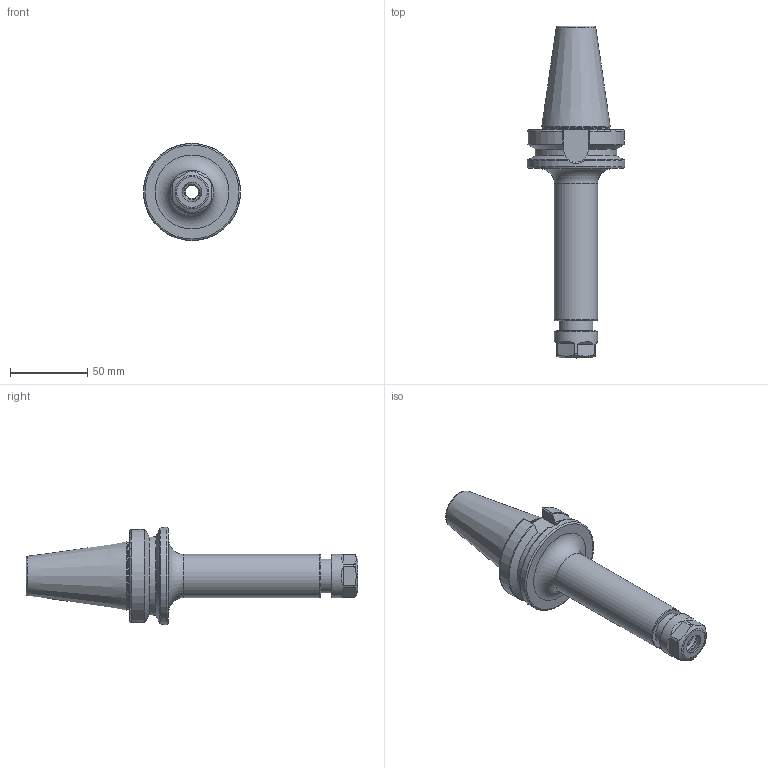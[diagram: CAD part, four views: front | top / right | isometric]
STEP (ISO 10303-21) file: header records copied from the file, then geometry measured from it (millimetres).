
FILE_DESCRIPTION(/* description */ (''),/* implementation_level */ '2;1');
FILE_NAME(/* name */ 'I:\2.客户确认模型及简图\2021.05.02---美国HAAS\BT40-ER16-150.stp',/* time_stamp */ '2021-05-02T13:08:35+08:00',/* author */ ('Administrator'),/* organization */ (''),/* preprocessor_version */ 'ST-DEVELOPER v18.1',/* originating_system */ 'Autodesk Inventor 2021',/* authorisation */ '');
FILE_SCHEMA (('AUTOMOTIVE_DESIGN { 1 0 10303 214 3 1 1 }'));
Length unit declared in the file: millimetre
Products named in the file (3): BT40-ER16-150; BT40-ER16-150_1; ER16A单偏心压帽
Assembly tree (2 placements, depth 2):
  BT40-ER16-150
    BT40-ER16-150_1
    ER16A单偏心压帽
Bounding box: 63 x 215.4 x 63 mm (x, y, z)
Volume: 184378.5 mm3; surface area: 38257.1 mm2
Topology: 2 solids, 2 shells, 112 faces, 323 edges, 221 vertices
Faces by surface type: plane 41, torus 23, cylinder 21, cone 17, bspline 10
Full cylindrical faces by diameter (mm): 8.376 x1, 10.5 x1, 12.8 x1, 13.835 x1, 16.5 x1, 17 x1, 18 x1, 20.376 x1, 22 x1, 22.5 x1, 28 x2, 43.5 x1, 63 x1
Entity records: 4647 total; most frequent: CARTESIAN_POINT 1614, ORIENTED_EDGE 646, DIRECTION 613, EDGE_CURVE 323, AXIS2_PLACEMENT_3D 259, VERTEX_POINT 221, CIRCLE 145, EDGE_LOOP 122
